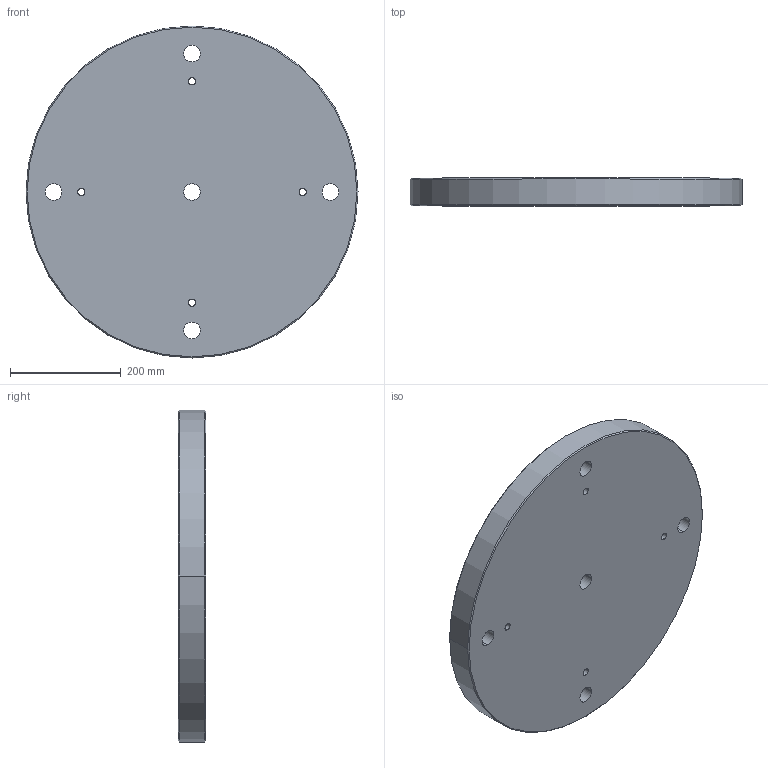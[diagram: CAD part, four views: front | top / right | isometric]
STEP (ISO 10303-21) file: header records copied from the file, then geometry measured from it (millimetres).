
FILE_DESCRIPTION((''),'2;1');
FILE_NAME('FG_WH_BASPL_RDPLNNP004','2026-05-18T09:40:36',('Admin'),(''),'CREO PARAMETRIC BY PTC INC, 2025010','CREO PARAMETRIC BY PTC INC, 2025010','');
FILE_SCHEMA(('CONFIG_CONTROL_DESIGN'));
Length unit declared in the file: millimetre
Products named in the file (1): FG_WH_BASPL_RDPLNNP004
Bounding box: 600 x 50 x 600 mm (x, y, z)
Volume: 13918541.4 mm3; surface area: 679887.1 mm2
Topology: 1 solids, 1 shells, 38 faces, 92 edges, 60 vertices
Faces by surface type: cylinder 28, plane 6, cone 4
Entity records: 1218 total; most frequent: DIRECTION 228, CARTESIAN_POINT 190, ORIENTED_EDGE 184, AXIS2_PLACEMENT_3D 98, EDGE_CURVE 92, VERTEX_POINT 60, EDGE_LOOP 60, CIRCLE 60
